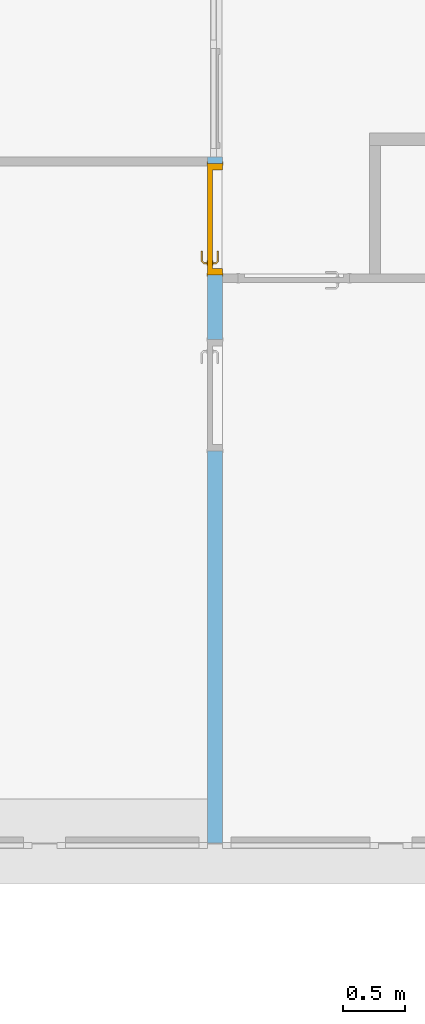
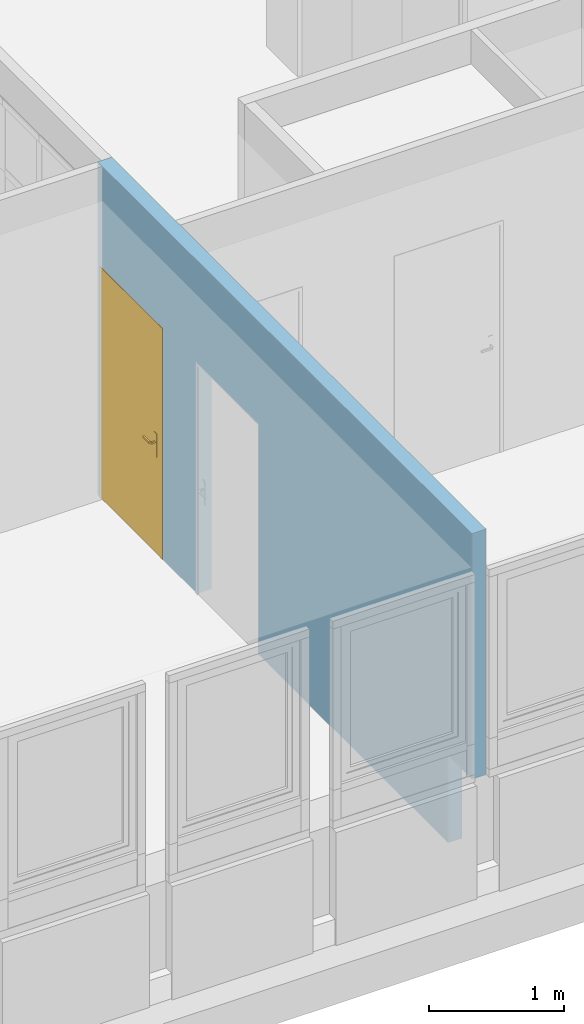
# One storey, part 55 of 97: 1 door, 2 openings, plus 1 element that does not belong to this part.
"""IFC4 building model written with IfcOpenShell, lengths in metres."""

from ifc_helpers import new_model, entity, si_unit, converted_unit, derived_unit, direction, frame, origin, place, context, subcontext, project, spatial, indexed_curve, outline, extrude, polygons, source, transform, mapped, material, material_list, layer, layer_set, constituent, constituent_set, type_object, type_shapes, element, fill, save


model = new_model("IFC4")

# Units and contexts
model_context = context("Model", 3, precision=1e-05, world=origin(), true_north=direction((6.12303176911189e-17, 1.0)))
body_context = subcontext(model_context, "Body", "Model", "MODEL_VIEW")
ifc_project = project(units=[si_unit("LENGTHUNIT", "METRE"), si_unit("AREAUNIT", "SQUARE_METRE"), si_unit("VOLUMEUNIT", "CUBIC_METRE"), converted_unit("PLANEANGLEUNIT", "DEGREE", entity("IfcRatioMeasure", 0.0174532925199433), si_unit("PLANEANGLEUNIT", "RADIAN"), dimensions=[0, 0, 0, 0, 0, 0, 0]), si_unit("MASSUNIT", "GRAM", prefix="KILO"), derived_unit("MASSDENSITYUNIT", [(si_unit("MASSUNIT", "GRAM", prefix="KILO"), 1), (si_unit("LENGTHUNIT", "METRE"), -3)]), derived_unit("MOMENTOFINERTIAUNIT", [(si_unit("LENGTHUNIT", "METRE"), 4)]), si_unit("TIMEUNIT", "SECOND"), si_unit("FREQUENCYUNIT", "HERTZ"), si_unit("THERMODYNAMICTEMPERATUREUNIT", "DEGREE_CELSIUS"), derived_unit("THERMALTRANSMITTANCEUNIT", [(si_unit("MASSUNIT", "GRAM", prefix="KILO"), 1), (si_unit("THERMODYNAMICTEMPERATUREUNIT", "KELVIN"), -1), (si_unit("TIMEUNIT", "SECOND"), -3)]), derived_unit("VOLUMETRICFLOWRATEUNIT", [(si_unit("LENGTHUNIT", "METRE"), 3), (si_unit("TIMEUNIT", "SECOND"), -1)]), si_unit("ELECTRICCURRENTUNIT", "AMPERE"), si_unit("ELECTRICVOLTAGEUNIT", "VOLT"), si_unit("POWERUNIT", "WATT"), si_unit("FORCEUNIT", "NEWTON", prefix="KILO"), si_unit("ILLUMINANCEUNIT", "LUX"), si_unit("LUMINOUSFLUXUNIT", "LUMEN"), si_unit("LUMINOUSINTENSITYUNIT", "CANDELA"), derived_unit("USERDEFINED", [(si_unit("MASSUNIT", "GRAM", prefix="KILO"), -1), (si_unit("LENGTHUNIT", "METRE"), -2), (si_unit("TIMEUNIT", "SECOND"), 3), (si_unit("LUMINOUSFLUXUNIT", "LUMEN"), 1)]), derived_unit("LINEARVELOCITYUNIT", [(si_unit("LENGTHUNIT", "METRE"), 1), (si_unit("TIMEUNIT", "SECOND"), -1)]), si_unit("PRESSUREUNIT", "PASCAL"), derived_unit("USERDEFINED", [(si_unit("LENGTHUNIT", "METRE"), -2), (si_unit("MASSUNIT", "GRAM", prefix="KILO"), 1), (si_unit("TIMEUNIT", "SECOND"), -2)]), derived_unit("LINEARFORCEUNIT", [(si_unit("MASSUNIT", "GRAM", prefix="KILO"), 1), (si_unit("LENGTHUNIT", "METRE"), 1), (si_unit("TIMEUNIT", "SECOND"), -2), (si_unit("LENGTHUNIT", "METRE"), -1)]), derived_unit("PLANARFORCEUNIT", [(si_unit("MASSUNIT", "GRAM", prefix="KILO"), 1), (si_unit("LENGTHUNIT", "METRE"), 1), (si_unit("TIMEUNIT", "SECOND"), -2), (si_unit("LENGTHUNIT", "METRE"), -2)])], contexts=[model_context])

# Site, building, storey
site_placement = place(None, origin())
site = spatial("IfcSite", under=ifc_project, at=site_placement, Name="Default", CompositionType="ELEMENT")
building_placement = place(site_placement, origin())
building = spatial("IfcBuilding", under=site, at=building_placement, Name="HOTEL CONSULAIRE BOULOGNE SUR MER", CompositionType="ELEMENT")
storey_placement = place(building_placement, frame((0.0, 0.0, 3.62152697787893)))
storey = spatial("IfcBuildingStorey", under=building, at=storey_placement, Name="Niveau 1", CompositionType="ELEMENT", Elevation=3.62152697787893)

# Wall, openings, door
ifc_material_1 = material(Name="Mur par défaut", Category="Divers")
ifc_layer = layer(ifc_material_1, 0.12, Name="Mur par défaut", Category="Divers")
ifc_layer_set = layer_set([ifc_layer], Name="Mur de base:Générique - Int.120")
wall_type = type_object("IfcWallType", Name="Mur de base:Générique - Int.120", PredefinedType="NOTDEFINED", material=ifc_layer_set)
wall_placement = place(storey_placement, frame((-9.66440198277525, -29.5540671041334, 0.0), z_axis=(0.0, 0.0, 1.0), x_axis=(0.0, 1.0, 0.0)))
wall = element("IfcWall", 1, at=wall_placement, inside=storey, type_object=wall_type, material=ifc_layer_set, Name="Mur de base:Générique - Int.120", ObjectType="Mur de base:Générique - Int.120", PredefinedType="NOTDEFINED", context=body_context, shape_type="Tessellation", body=[
    polygons([(5.54480749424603, -0.0599999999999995, 5.41433564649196e-16), (5.49280749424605, -0.0599999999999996, 5.41433564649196e-16), (5.49280749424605, 0.0599999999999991, 5.41433564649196e-16), (5.54480749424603, 0.0599999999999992, 5.41433564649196e-16), (4.59280749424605, -0.0599999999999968, 5.41433564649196e-16), (4.53041964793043, -0.0599999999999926, 5.41433564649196e-16), (4.06941964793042, -0.0599999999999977, 5.41433564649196e-16), (4.06941964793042, 0.060000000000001, 5.41433564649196e-16), (4.59280749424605, 0.0600000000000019, 5.41433564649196e-16), (5.54480749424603, -0.0599999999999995, 3.0102145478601), (4.60041964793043, -0.06, 3.0102145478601), (4.53041964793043, -0.0599999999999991, 3.0102145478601), (0.0, -0.0599999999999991, 3.0102145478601), (0.0, -0.0599999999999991, 0.791612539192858), (0.35396238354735, -0.0599999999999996, 0.791612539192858), (0.35396238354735, -0.0599999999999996, 5.41433564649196e-16), (3.16941964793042, -0.0599999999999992, 5.41433564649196e-16), (3.16941964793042, -0.0599999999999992, 2.075), (4.06941964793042, -0.0599999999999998, 2.075), (4.59280749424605, -0.06, 2.075), (5.49280749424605, -0.0599999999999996, 2.075), (0.0, 0.0600000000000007, 3.0102145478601), (5.47480749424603, 0.0600000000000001, 3.0102145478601), (5.54480749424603, 0.0600000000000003, 3.0102145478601), (5.49280749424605, 0.0600000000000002, 2.075), (4.59280749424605, 0.0599999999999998, 2.075), (4.06941964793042, 0.06, 2.075), (3.16941964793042, 0.0600000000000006, 2.075), (3.16941964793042, 0.0600000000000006, 5.41433564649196e-16), (0.35396238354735, 0.0600000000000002, 5.41433564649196e-16), (0.35396238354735, 0.0600000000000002, 0.791612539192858), (0.0, 0.0600000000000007, 0.791612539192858), (5.54480749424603, 0.0302226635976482, 3.0102145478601), (5.54480749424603, -0.0597773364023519, 3.0102145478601)], [[[1, 2, 3, 4]], [[6, 7, 8, 9, 5]], [[19, 18, 28, 27]], [[26, 25, 21, 20]], [[15, 14, 32, 31]], [[29, 17, 16, 30]], [[5, 20, 21, 2, 1, 10, 11, 12, 13, 14, 15, 16, 17, 18, 19, 7, 6]], [[24, 4, 3, 25, 26, 9, 8, 27, 28, 29, 30, 31, 32, 22, 23]], [[18, 17, 29, 28]], [[9, 26, 20, 5]], [[10, 1, 4, 24, 33, 34]], [[7, 19, 27, 8]], [[25, 3, 2, 21]], [[14, 13, 22, 32]], [[16, 15, 31, 30]], [[12, 11, 10, 34, 33, 24, 23, 22, 13]]], closed=True),
])
opening_1_placement = place(wall_placement, frame((3.16941964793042, -0.0599999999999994, 0.0)))
element("IfcOpeningElement", 2, at=opening_1_placement, cuts=wall, Name="Int. Simple:PP (0.83m x 2.04m):1", ObjectType="Opening", PredefinedType="OPENING", context=body_context, shape_type="SweptSolid", body=[
    extrude(outline(indexed_curve([(0.0, 1.08286712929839e-15), (2.075, 1.08286712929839e-15), (2.075, 0.9), (0.0, 0.9), (0.0, 1.08286712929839e-15)], self_intersect=False)), frame((0.0, 0.0, 0.0), z_axis=(0.0, 1.0, 0.0), x_axis=(0.0, 0.0, 1.0)), (0.0, 0.0, 1.0), 0.12),
])
opening_2_placement = place(wall_placement, frame((4.59280749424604, -0.0599999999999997, 0.0)))
opening_2 = element("IfcOpeningElement", 3, at=opening_2_placement, cuts=wall, Name="Int. Simple:PP (0.83m x 2.04m):1", ObjectType="Opening", PredefinedType="OPENING", context=body_context, shape_type="SweptSolid", body=[
    extrude(outline(indexed_curve([(0.0, 0.9), (0.0, -1.10599456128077e-30), (2.075, -1.10599456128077e-30), (2.075, 0.9), (0.0, 0.9)], self_intersect=False)), frame((0.0, 0.0, 0.0), z_axis=(0.0, 1.0, 0.0), x_axis=(0.0, 0.0, 1.0)), (0.0, 0.0, 1.0), 0.12),
])
ifc_material_2 = material(Name="Finition Peinture - Blanc satiné", Category="Peinture")
ifc_constituent_1 = constituent(ifc_material_2, Name="Finition Peinture - Blanc satiné", Category="Matériaux")
ifc_material_3 = material(Name="Bois - Panneau de porte", Category="Bois")
ifc_constituent_2 = constituent(ifc_material_3, Name="Bois - Panneau de porte", Category="Matériaux")
ifc_material_4 = material(Name="Bois - Cadre de porte", Category="Bois")
ifc_constituent_3 = constituent(ifc_material_4, Name="Bois - Cadre de porte", Category="Matériaux")
ifc_constituent_set = constituent_set(constituents=[ifc_constituent_1, ifc_constituent_2, ifc_constituent_3], Name="MaterialConstituentSet")
ifc_material_list = material_list([ifc_material_4, ifc_material_3, ifc_material_4, ifc_material_2])
door_type = type_object("IfcDoorType", Name="Int. Simple:PP (0.83m x 2.04m)", OperationType="NOTDEFINED", PredefinedType="DOOR", material=ifc_material_list)
shared_shape = source(origin(), body_context, "Body", "Tessellation", [
    polygons([(0.895000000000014, -0.00500000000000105, 0.870000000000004), (0.895000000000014, -0.00500000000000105, 1.08), (0.885352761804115, -0.00500000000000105, 1.08399601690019), (0.875000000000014, -0.00500000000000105, 1.08535898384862), (0.864647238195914, -0.00500000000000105, 1.08399601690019), (0.855000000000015, -0.00500000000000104, 1.08), (0.855000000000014, -0.00500000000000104, 0.870000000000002), (0.864647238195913, -0.00500000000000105, 0.866003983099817), (0.875000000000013, -0.00500000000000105, 0.86464101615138), (0.885352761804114, -0.00500000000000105, 0.866003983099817), (0.895000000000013, -1.05748743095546e-15, 0.870000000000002), (0.885352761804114, -1.05748743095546e-15, 0.866003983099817), (0.875000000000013, -1.04902753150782e-15, 0.86464101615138), (0.864647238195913, -1.04902753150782e-15, 0.866003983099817), (0.855000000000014, -1.04056763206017e-15, 0.870000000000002), (0.855000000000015, -1.04056763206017e-15, 1.08), (0.864647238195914, -1.04902753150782e-15, 1.08399601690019), (0.875000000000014, -1.04902753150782e-15, 1.08535898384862), (0.885352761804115, -1.05748743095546e-15, 1.08399601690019), (0.895000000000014, -1.05748743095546e-15, 1.08)], [[[1, 2, 3, 4, 5, 6, 7, 8, 9, 10]], [[20, 11, 12, 13, 14, 15, 16, 17, 18, 19]], [[10, 12, 11, 1]], [[9, 13, 12, 10]], [[8, 14, 13, 9]], [[8, 7, 15, 14]], [[15, 7, 6, 16]], [[5, 17, 16, 6]], [[4, 18, 17, 5]], [[3, 19, 18, 4]], [[3, 2, 20, 19]], [[11, 20, 2, 1]]], closed=True),
    polygons([(0.855000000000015, 0.0399999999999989, 1.08), (0.855000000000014, 0.0399999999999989, 0.870000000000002), (0.864647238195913, 0.0399999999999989, 0.866003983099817), (0.875000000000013, 0.0399999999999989, 0.86464101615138), (0.885352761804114, 0.0399999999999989, 0.866003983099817), (0.895000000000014, 0.0399999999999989, 0.870000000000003), (0.895000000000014, 0.0399999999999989, 1.08), (0.885352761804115, 0.0399999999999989, 1.08399601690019), (0.875000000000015, 0.0399999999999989, 1.08535898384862), (0.864647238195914, 0.0399999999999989, 1.08399601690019), (0.855000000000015, 0.0449999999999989, 1.08), (0.864647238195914, 0.0449999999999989, 1.08399601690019), (0.875000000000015, 0.0449999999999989, 1.08535898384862), (0.885352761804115, 0.0449999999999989, 1.08399601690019), (0.895000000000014, 0.0449999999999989, 1.08), (0.895000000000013, 0.0449999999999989, 0.870000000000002), (0.885352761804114, 0.0449999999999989, 0.866003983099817), (0.875000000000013, 0.0449999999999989, 0.86464101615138), (0.864647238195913, 0.0449999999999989, 0.866003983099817), (0.855000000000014, 0.0449999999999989, 0.870000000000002)], [[[6, 7, 8, 9, 10, 1, 2, 3, 4, 5]], [[13, 14, 15, 16, 17, 18, 19, 20, 11, 12]], [[10, 12, 11, 1]], [[9, 13, 12, 10]], [[8, 14, 13, 9]], [[8, 7, 15, 14]], [[16, 15, 7, 6]], [[5, 17, 16, 6]], [[4, 18, 17, 5]], [[3, 19, 18, 4]], [[3, 2, 20, 19]], [[20, 2, 1, 11]]], closed=True),
    polygons([(0.881000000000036, -0.00500000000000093, 1.00699999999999), (0.881000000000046, -0.00500000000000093, 0.992999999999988), (0.877025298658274, -0.00500000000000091, 0.99221955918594), (0.872974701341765, -0.00500000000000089, 0.992219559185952), (0.868999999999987, -0.00500000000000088, 0.993000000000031), (0.868999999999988, -0.00500000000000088, 1.007), (0.872974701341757, -0.00500000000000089, 1.00778044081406), (0.877025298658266, -0.00500000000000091, 1.00778044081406), (0.868999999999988, -0.0276803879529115, 1.007), (0.872974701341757, -0.0293267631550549, 1.00778044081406), (0.877025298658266, -0.0310045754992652, 1.00778044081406), (0.881000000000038, -0.0326509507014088, 1.007), (0.868999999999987, -0.0276803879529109, 0.993000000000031), (0.881000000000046, -0.0326509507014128, 0.992999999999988), (0.877025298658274, -0.0310045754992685, 0.99221955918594), (0.872974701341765, -0.0293267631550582, 0.992219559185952), (0.85765222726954, -0.0390281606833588, 1.007), (0.859298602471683, -0.0430028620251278, 1.00778044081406), (0.860976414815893, -0.0470534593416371, 1.00778044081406), (0.862622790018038, -0.051028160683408, 1.007), (0.857652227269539, -0.0390281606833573, 0.993000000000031), (0.862622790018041, -0.0510281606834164, 0.992999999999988), (0.860976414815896, -0.0470534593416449, 0.99221955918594), (0.859298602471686, -0.0430028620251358, 0.992219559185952), (0.774981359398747, -0.0510281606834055, 1.007), (0.774981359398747, -0.0470534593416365, 1.00778044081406), (0.774981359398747, -0.0430028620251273, 1.00778044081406), (0.774981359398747, -0.0390281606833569, 1.00699999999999), (0.774981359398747, -0.0390281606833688, 0.993000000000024), (0.774981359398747, -0.0430028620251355, 0.992219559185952), (0.774981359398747, -0.0470534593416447, 0.99221955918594), (0.774981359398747, -0.0510281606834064, 0.992999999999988), (0.822692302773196, -0.051028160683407, 1.007), (0.81713998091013, -0.045028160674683, 1.0078786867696), (0.816316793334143, -0.039028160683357, 1.007), (0.822692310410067, -0.0510281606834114, 0.992999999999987), (0.817139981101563, -0.0450281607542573, 0.992121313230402), (0.816316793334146, -0.0390281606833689, 0.993000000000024)], [[[7, 8, 1, 2, 3, 4, 5, 6]], [[17, 21, 38, 29, 28, 35]], [[1, 8, 11, 12]], [[8, 7, 10, 18, 19, 11]], [[7, 6, 9, 10]], [[13, 9, 6, 5]], [[25, 26, 27, 28, 29, 30, 31, 32]], [[4, 16, 13, 5]], [[4, 3, 15, 23, 24, 16]], [[2, 14, 15, 3]], [[12, 14, 2, 1]], [[12, 11, 19, 20]], [[10, 9, 17, 18]], [[21, 17, 9, 13]], [[13, 16, 24, 21]], [[15, 14, 22, 23]], [[20, 22, 14, 12]], [[34, 26, 33]], [[33, 26, 25]], [[33, 20, 19]], [[18, 35, 34]], [[35, 18, 17]], [[28, 27, 35]], [[34, 27, 26]], [[34, 35, 27]], [[34, 33, 19]], [[18, 34, 19]], [[37, 30, 38]], [[31, 37, 36]], [[24, 38, 21]], [[30, 29, 38]], [[31, 36, 32]], [[36, 23, 22]], [[37, 23, 36]], [[37, 24, 23]], [[37, 38, 24]], [[30, 37, 31]], [[22, 20, 33, 25, 32, 36]]], closed=True),
    polygons([(0.868999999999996, 0.0449999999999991, 0.993000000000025), (0.872974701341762, 0.0449999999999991, 0.992219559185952), (0.877025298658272, 0.0449999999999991, 0.99221955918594), (0.881000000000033, 0.0449999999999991, 0.992999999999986), (0.881000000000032, 0.0449999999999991, 1.007), (0.877025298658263, 0.0449999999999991, 1.00778044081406), (0.872974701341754, 0.0449999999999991, 1.00778044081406), (0.868999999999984, 0.0449999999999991, 1.007), (0.868999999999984, 0.067485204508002, 1.007), (0.868999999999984, 0.0674852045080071, 0.993000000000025), (0.881000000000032, 0.0724557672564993, 1.007), (0.877025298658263, 0.070809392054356, 1.00778044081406), (0.872974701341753, 0.0691315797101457, 1.00778044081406), (0.881000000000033, 0.0724557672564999, 0.992999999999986), (0.872974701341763, 0.0691315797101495, 0.992219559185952), (0.877025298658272, 0.0708093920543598, 0.99221955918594), (0.857514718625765, 0.0789704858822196, 1.007), (0.857514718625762, 0.0789704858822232, 0.993000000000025), (0.862485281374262, 0.0909704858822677, 1.007), (0.860838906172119, 0.0869957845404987, 1.00778044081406), (0.859161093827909, 0.0829451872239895, 1.00778044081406), (0.862485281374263, 0.0909704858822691, 0.992999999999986), (0.859161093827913, 0.0829451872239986, 0.992219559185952), (0.860838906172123, 0.0869957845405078, 0.99221955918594), (0.77495421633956, 0.0789704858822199, 0.993000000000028), (0.77495421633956, 0.0789704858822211, 1.007), (0.77495421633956, 0.0829451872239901, 1.00778044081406), (0.77495421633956, 0.0869957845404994, 1.00778044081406), (0.77495421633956, 0.0909704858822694, 1.007), (0.77495421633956, 0.0909704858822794, 0.992999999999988), (0.77495421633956, 0.086995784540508, 0.99221955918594), (0.77495421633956, 0.0829451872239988, 0.992219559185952), (0.822554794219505, 0.0909704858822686, 1.007), (0.817057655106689, 0.0849704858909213, 1.0078786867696), (0.816234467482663, 0.0789704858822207, 1.007), (0.822554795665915, 0.0909704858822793, 0.992999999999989), (0.817057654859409, 0.0849704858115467, 0.992121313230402), (0.816234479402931, 0.0789704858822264, 0.993000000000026)], [[[2, 3, 4, 5, 6, 7, 8, 1]], [[18, 17, 35, 26, 25, 38]], [[9, 10, 1, 8]], [[27, 28, 29, 30, 31, 32, 25, 26]], [[7, 13, 9, 8]], [[7, 6, 12, 20, 21, 13]], [[5, 11, 12, 6]], [[11, 5, 4, 14]], [[4, 3, 16, 14]], [[3, 2, 15, 23, 24, 16]], [[2, 1, 10, 15]], [[17, 18, 10, 9]], [[9, 13, 21, 17]], [[11, 19, 20, 12]], [[22, 19, 11, 14]], [[14, 16, 24, 22]], [[15, 10, 18, 23]], [[34, 27, 35]], [[28, 34, 33]], [[21, 35, 17]], [[27, 26, 35]], [[28, 33, 29]], [[33, 20, 19]], [[34, 20, 33]], [[34, 21, 20]], [[34, 35, 21]], [[27, 34, 28]], [[19, 22, 36, 30, 29, 33]], [[37, 31, 36]], [[36, 31, 30]], [[36, 22, 24]], [[23, 38, 37]], [[38, 23, 18]], [[25, 32, 38]], [[37, 32, 31]], [[37, 38, 32]], [[37, 36, 24]], [[23, 37, 24]]], closed=True),
    polygons([(0.935000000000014, 0.04, 2.04), (0.935000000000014, 0.04, 0.0), (0.105000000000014, 0.04, 0.0), (0.105000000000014, 0.04, 2.04), (0.935000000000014, 4.22994972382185e-17, 2.04), (0.105000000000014, 4.22994972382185e-17, 2.04), (0.105000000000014, 4.22994972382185e-17, 0.0), (0.935000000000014, 4.22994972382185e-17, 0.0)], [[[3, 4, 1, 2]], [[5, 6, 7, 8]], [[5, 1, 4, 6]], [[6, 4, 3, 7]], [[8, 7, 3, 2]], [[8, 2, 1, 5]]], closed=True),
    polygons([(0.970000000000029, 0.0, 0.0), (0.935000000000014, 0.0, 0.0), (0.935000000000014, 0.040000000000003, 0.0), (0.920000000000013, 0.040000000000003, 0.0), (0.920000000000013, 0.120000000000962, 0.0), (0.970000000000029, 0.120000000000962, 0.0), (0.970000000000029, 0.120000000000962, 2.07500000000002), (0.970000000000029, 0.0, 2.07500000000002), (0.920000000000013, 0.120000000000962, 2.025), (0.120000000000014, 0.120000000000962, 2.025), (0.120000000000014, 0.120000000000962, 6.02669015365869e-24), (0.0699999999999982, 0.120000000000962, 9.23443718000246e-25), (0.0699999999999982, 0.120000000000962, 2.07500000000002), (0.920000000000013, 0.040000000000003, 2.025), (0.935000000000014, 0.040000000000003, 2.04), (0.105000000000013, 0.040000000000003, 2.04), (0.105000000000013, 0.040000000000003, 1.51399294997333e-24), (0.120000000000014, 0.040000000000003, 1.99209609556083e-25), (0.120000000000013, 0.040000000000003, 2.025), (0.935000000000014, 0.0, 2.04), (0.0699999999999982, 0.0, 2.07500000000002), (0.0699999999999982, 0.0, 1.81925185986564e-24), (0.105000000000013, 0.0, 3.40121094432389e-24), (0.105000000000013, 0.0, 2.04)], [[[5, 6, 1, 2, 3, 4]], [[17, 23, 22, 12, 11, 18]], [[19, 10, 9, 14]], [[24, 16, 15, 20]], [[7, 8, 1, 6]], [[11, 10, 19, 18]], [[17, 16, 24, 23]], [[9, 10, 11, 12, 13, 7, 6, 5]], [[9, 5, 4, 14]], [[15, 3, 2, 20]], [[12, 22, 21, 13]], [[19, 14, 4, 3, 15, 16, 17, 18]], [[24, 20, 2, 1, 8, 21, 22, 23]], [[13, 21, 8, 7]]], closed=True),
    polygons([(0.955000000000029, 0.120000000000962, 1.35358391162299e-16), (0.955000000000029, 0.125000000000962, 1.35358391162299e-16), (0.985000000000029, 0.125000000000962, 1.35358391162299e-16), (0.985000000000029, 0.120000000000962, 1.35358391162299e-16), (0.985000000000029, 0.120000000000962, 2.09000000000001), (0.0550000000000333, 0.120000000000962, 2.09000000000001), (0.0550000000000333, 0.120000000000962, -5.44393448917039e-24), (0.0850000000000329, 0.120000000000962, 5.09144898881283e-24), (0.0850000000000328, 0.120000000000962, 2.06000000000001), (0.955000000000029, 0.120000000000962, 2.06000000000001), (0.985000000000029, 0.125000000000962, 2.09000000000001), (0.955000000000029, 0.125000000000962, 2.06000000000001), (0.0850000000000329, 0.125000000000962, 2.06000000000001), (0.0850000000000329, 0.125000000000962, -1.89153776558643e-24), (0.055000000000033, 0.125000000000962, 5.03766794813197e-24), (0.0550000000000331, 0.125000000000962, 2.09000000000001)], [[[2, 3, 4, 1]], [[7, 15, 14, 8]], [[13, 12, 10, 9]], [[9, 10, 1, 4, 5, 6, 7, 8]], [[11, 5, 4, 3]], [[8, 14, 13, 9]], [[12, 13, 14, 15, 16, 11, 3, 2]], [[10, 12, 2, 1]], [[15, 7, 6, 16]], [[16, 6, 5, 11]]], closed=True),
    polygons([(0.955000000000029, -0.00499999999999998, 1.35358391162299e-16), (0.955000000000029, 0.0, 1.35358391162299e-16), (0.985000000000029, 0.0, 1.35358391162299e-16), (0.985000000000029, -0.00499999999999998, 1.35358391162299e-16), (0.0850000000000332, -0.00499999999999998, -1.35358391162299e-16), (0.0550000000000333, -0.00499999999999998, -1.35358391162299e-16), (0.055000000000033, 0.0, -1.35358391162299e-16), (0.0850000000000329, 0.0, -1.35358391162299e-16), (0.985000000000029, -0.00499999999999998, 2.09000000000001), (0.0550000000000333, -0.00499999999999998, 2.09000000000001), (0.0850000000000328, -0.00499999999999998, 2.06000000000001), (0.955000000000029, -0.00499999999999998, 2.06000000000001), (0.985000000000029, 0.0, 2.09000000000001), (0.955000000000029, 0.0, 2.06000000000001), (0.0850000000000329, 0.0, 2.06000000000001), (0.0550000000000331, 0.0, 2.09000000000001)], [[[2, 3, 4, 1]], [[6, 7, 8, 5]], [[11, 15, 14, 12]], [[11, 12, 1, 4, 9, 10, 6, 5]], [[9, 4, 3, 13]], [[5, 8, 15, 11]], [[14, 15, 8, 7, 16, 13, 3, 2]], [[12, 14, 2, 1]], [[7, 6, 10, 16]], [[16, 10, 9, 13]]], closed=True),
])
type_shapes(door_type, [shared_shape])
door_placement = place(opening_2_placement, frame((0.970000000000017, 0.11999999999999, 0.0), z_axis=(0.0, 0.0, 1.0), x_axis=(-1.0, 0.0, 0.0)))
door = element("IfcDoor", 4, at=door_placement, inside=storey, type_object=door_type, material=ifc_constituent_set, Name="Int. Simple:PP (0.83m x 2.04m)", ObjectType="Int. Simple:PP (0.83m x 2.04m)", OperationType="NOTDEFINED", OverallHeight=2.075, OverallWidth=0.899999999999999, PredefinedType="DOOR", context=body_context, shape_type="MappedRepresentation", body=[
    mapped(shared_shape, transform((0.0, 0.0, 0.0), scale=1.0)),
])
fill(opening_2, door)

save(model, "model.ifc")
